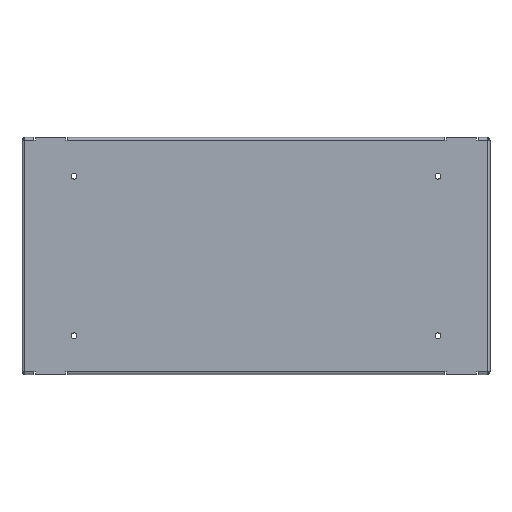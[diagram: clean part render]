
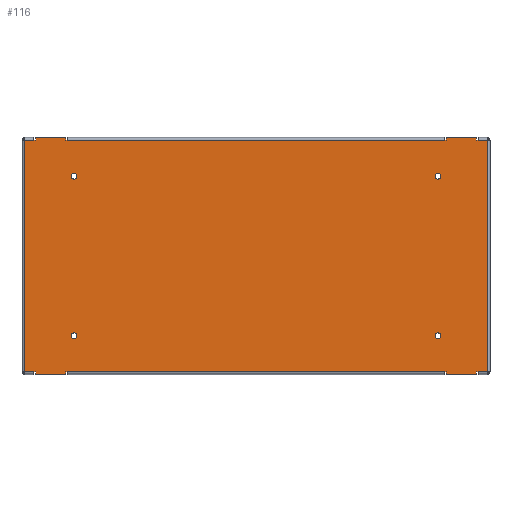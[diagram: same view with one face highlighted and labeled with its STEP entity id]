
A CAD part, top view. The second image highlights one B-rep face of the part: STEP entity #116.
In plain terms, the highlighted planar face has unit normal (0, 0, 1).
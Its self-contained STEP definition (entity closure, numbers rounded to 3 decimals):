
#116=ADVANCED_FACE('',(#582,#584,#586,#588,#590),#592,.F.);
#582=FACE_BOUND('',#583,.T.);
#583=EDGE_LOOP('',(#1966,#1967,#1968,#1969,#1970,#1971,#1972,#1973,#1974,#1975,#1976,
#1977,#1978,#1979,#1980,#1981,#1982,#1983,#1984,#1985,#1986,#1987,#1988,#1989,#1990,
#1991,#1992,#1993));
#584=FACE_BOUND('',#585,.T.);
#585=EDGE_LOOP('',(#1994));
#586=FACE_BOUND('',#587,.T.);
#587=EDGE_LOOP('',(#1995));
#588=FACE_BOUND('',#589,.T.);
#589=EDGE_LOOP('',(#1996));
#590=FACE_BOUND('',#591,.T.);
#591=EDGE_LOOP('',(#1997));
#592=PLANE('',#593);
#593=AXIS2_PLACEMENT_3D('',#594,#595,#596);
#594=CARTESIAN_POINT('',(0.,0.,0.));
#595=DIRECTION('',(0.,0.,-1.));
#596=DIRECTION('',(-1.,0.,0.));
#1966=ORIENTED_EDGE('',*,*,#2666,.T.);
#1967=ORIENTED_EDGE('',*,*,#2565,.T.);
#1968=ORIENTED_EDGE('',*,*,#2549,.T.);
#1969=ORIENTED_EDGE('',*,*,#2667,.F.);
#1970=ORIENTED_EDGE('',*,*,#2668,.F.);
#1971=ORIENTED_EDGE('',*,*,#2669,.F.);
#1972=ORIENTED_EDGE('',*,*,#2551,.T.);
#1973=ORIENTED_EDGE('',*,*,#2557,.T.);
#1974=ORIENTED_EDGE('',*,*,#2541,.T.);
#1975=ORIENTED_EDGE('',*,*,#2670,.F.);
#1976=ORIENTED_EDGE('',*,*,#2671,.F.);
#1977=ORIENTED_EDGE('',*,*,#2672,.F.);
#1978=ORIENTED_EDGE('',*,*,#2543,.T.);
#1979=ORIENTED_EDGE('',*,*,#2559,.T.);
#1980=ORIENTED_EDGE('',*,*,#2673,.T.);
#1981=ORIENTED_EDGE('',*,*,#2674,.T.);
#1982=ORIENTED_EDGE('',*,*,#2675,.F.);
#1983=ORIENTED_EDGE('',*,*,#2676,.T.);
#1984=ORIENTED_EDGE('',*,*,#2677,.T.);
#1985=ORIENTED_EDGE('',*,*,#2678,.T.);
#1986=ORIENTED_EDGE('',*,*,#2610,.F.);
#1987=ORIENTED_EDGE('',*,*,#2618,.T.);
#1988=ORIENTED_EDGE('',*,*,#2679,.F.);
#1989=ORIENTED_EDGE('',*,*,#2680,.T.);
#1990=ORIENTED_EDGE('',*,*,#2681,.T.);
#1991=ORIENTED_EDGE('',*,*,#2682,.T.);
#1992=ORIENTED_EDGE('',*,*,#2614,.F.);
#1993=ORIENTED_EDGE('',*,*,#2622,.T.);
#1994=ORIENTED_EDGE('',*,*,#2521,.T.);
#1995=ORIENTED_EDGE('',*,*,#2523,.T.);
#1996=ORIENTED_EDGE('',*,*,#2535,.F.);
#1997=ORIENTED_EDGE('',*,*,#2537,.F.);
#2521=EDGE_CURVE('',#2895,#2895,#2896,.T.);
#2523=EDGE_CURVE('',#2899,#2899,#2900,.T.);
#2535=EDGE_CURVE('',#2923,#2923,#2924,.T.);
#2537=EDGE_CURVE('',#2927,#2927,#2928,.T.);
#2541=EDGE_CURVE('',#2936,#2934,#2937,.T.);
#2543=EDGE_CURVE('',#2939,#2940,#2941,.T.);
#2549=EDGE_CURVE('',#2952,#2950,#2953,.T.);
#2551=EDGE_CURVE('',#2955,#2956,#2957,.T.);
#2557=EDGE_CURVE('',#2956,#2936,#2967,.T.);
#2559=EDGE_CURVE('',#2940,#2969,#2970,.T.);
#2565=EDGE_CURVE('',#2980,#2952,#2981,.T.);
#2610=EDGE_CURVE('',#3052,#3048,#3054,.T.);
#2614=EDGE_CURVE('',#3060,#3056,#3062,.T.);
#2618=EDGE_CURVE('',#3052,#3067,#3069,.T.);
#2622=EDGE_CURVE('',#3060,#3074,#3076,.T.);
#2666=EDGE_CURVE('',#3074,#2980,#3148,.T.);
#2667=EDGE_CURVE('',#3149,#2950,#3150,.T.);
#2668=EDGE_CURVE('',#3151,#3149,#3152,.T.);
#2669=EDGE_CURVE('',#2955,#3151,#3153,.T.);
#2670=EDGE_CURVE('',#3154,#2934,#3155,.T.);
#2671=EDGE_CURVE('',#3156,#3154,#3157,.T.);
#2672=EDGE_CURVE('',#2939,#3156,#3158,.T.);
#2673=EDGE_CURVE('',#2969,#3159,#3160,.T.);
#2674=EDGE_CURVE('',#3159,#3161,#3162,.T.);
#2675=EDGE_CURVE('',#3163,#3161,#3164,.T.);
#2676=EDGE_CURVE('',#3163,#3165,#3166,.T.);
#2677=EDGE_CURVE('',#3165,#3167,#3168,.T.);
#2678=EDGE_CURVE('',#3167,#3048,#3169,.T.);
#2679=EDGE_CURVE('',#3170,#3067,#3171,.T.);
#2680=EDGE_CURVE('',#3170,#3172,#3173,.T.);
#2681=EDGE_CURVE('',#3172,#3174,#3175,.T.);
#2682=EDGE_CURVE('',#3174,#3056,#3176,.T.);
#2895=VERTEX_POINT('',#3507);
#2896=CIRCLE('',#3508,3.65);
#2899=VERTEX_POINT('',#3517);
#2900=CIRCLE('',#3518,3.65);
#2923=VERTEX_POINT('',#3577);
#2924=CIRCLE('',#3578,3.65);
#2927=VERTEX_POINT('',#3587);
#2928=CIRCLE('',#3588,3.65);
#2934=VERTEX_POINT('',#3602);
#2936=VERTEX_POINT('',#3606);
#2937=LINE('',#3607,#3608);
#2939=VERTEX_POINT('',#3613);
#2940=VERTEX_POINT('',#3614);
#2941=LINE('',#3615,#3616);
#2950=VERTEX_POINT('',#3634);
#2952=VERTEX_POINT('',#3638);
#2953=LINE('',#3639,#3640);
#2955=VERTEX_POINT('',#3645);
#2956=VERTEX_POINT('',#3646);
#2957=LINE('',#3647,#3648);
#2967=LINE('',#3670,#3671);
#2969=VERTEX_POINT('',#3677);
#2970=LINE('',#3678,#3679);
#2980=VERTEX_POINT('',#3716);
#2981=LINE('',#3717,#3718);
#3048=VERTEX_POINT('',#3912);
#3052=VERTEX_POINT('',#3920);
#3054=LINE('',#3924,#3925);
#3056=VERTEX_POINT('',#3928);
#3060=VERTEX_POINT('',#3936);
#3062=LINE('',#3940,#3941);
#3067=VERTEX_POINT('',#3952);
#3069=LINE('',#3957,#3958);
#3074=VERTEX_POINT('',#3969);
#3076=LINE('',#3987,#3988);
#3148=LINE('',#4163,#4164);
#3149=VERTEX_POINT('',#4166);
#3150=LINE('',#4167,#4168);
#3151=VERTEX_POINT('',#4170);
#3152=LINE('',#4171,#4172);
#3153=LINE('',#4174,#4175);
#3154=VERTEX_POINT('',#4177);
#3155=LINE('',#4178,#4179);
#3156=VERTEX_POINT('',#4181);
#3157=LINE('',#4182,#4183);
#3158=LINE('',#4185,#4186);
#3159=VERTEX_POINT('',#4188);
#3160=LINE('',#4189,#4190);
#3161=VERTEX_POINT('',#4192);
#3162=LINE('',#4193,#4194);
#3163=VERTEX_POINT('',#4196);
#3164=LINE('',#4197,#4198);
#3165=VERTEX_POINT('',#4200);
#3166=LINE('',#4201,#4202);
#3167=VERTEX_POINT('',#4204);
#3168=LINE('',#4205,#4206);
#3169=LINE('',#4208,#4209);
#3170=VERTEX_POINT('',#4211);
#3171=LINE('',#4212,#4213);
#3172=VERTEX_POINT('',#4215);
#3173=LINE('',#4216,#4217);
#3174=VERTEX_POINT('',#4219);
#3175=LINE('',#4220,#4221);
#3176=LINE('',#4223,#4224);
#3507=CARTESIAN_POINT('',(-224.35,-100.,0.));
#3508=AXIS2_PLACEMENT_3D('',#3509,#3510,#3511);
#3509=CARTESIAN_POINT('',(-228.,-100.,0.));
#3510=DIRECTION('',(0.,0.,-1.));
#3511=DIRECTION('',(1.,0.,0.));
#3517=CARTESIAN_POINT('',(231.65,-100.,0.));
#3518=AXIS2_PLACEMENT_3D('',#3519,#3520,#3521);
#3519=CARTESIAN_POINT('',(228.,-100.,0.));
#3520=DIRECTION('',(0.,0.,-1.));
#3521=DIRECTION('',(1.,0.,0.));
#3577=CARTESIAN_POINT('',(-224.35,100.,0.));
#3578=AXIS2_PLACEMENT_3D('',#3579,#3580,#3581);
#3579=CARTESIAN_POINT('',(-228.,100.,0.));
#3580=DIRECTION('',(0.,0.,1.));
#3581=DIRECTION('',(-1.,0.,0.));
#3587=CARTESIAN_POINT('',(231.65,100.,0.));
#3588=AXIS2_PLACEMENT_3D('',#3589,#3590,#3591);
#3589=CARTESIAN_POINT('',(228.,100.,0.));
#3590=DIRECTION('',(0.,0.,1.));
#3591=DIRECTION('',(-1.,0.,0.));
#3602=CARTESIAN_POINT('',(238.2,-145.3,0.));
#3606=CARTESIAN_POINT('',(236.2,-145.3,0.));
#3607=CARTESIAN_POINT('',(236.2,-145.3,0.));
#3608=VECTOR('',#3609,1.);
#3609=DIRECTION('',(1.,0.,0.));
#3613=CARTESIAN_POINT('',(276.2,-145.3,0.));
#3614=CARTESIAN_POINT('',(278.2,-145.3,0.));
#3615=CARTESIAN_POINT('',(276.2,-145.3,0.));
#3616=VECTOR('',#3617,1.);
#3617=DIRECTION('',(1.,0.,0.));
#3634=CARTESIAN_POINT('',(-276.2,-145.3,0.));
#3638=CARTESIAN_POINT('',(-278.2,-145.3,0.));
#3639=CARTESIAN_POINT('',(-278.2,-145.3,0.));
#3640=VECTOR('',#3641,1.);
#3641=DIRECTION('',(1.,0.,0.));
#3645=CARTESIAN_POINT('',(-238.2,-145.3,0.));
#3646=CARTESIAN_POINT('',(-236.2,-145.3,0.));
#3647=CARTESIAN_POINT('',(-238.2,-145.3,0.));
#3648=VECTOR('',#3649,1.);
#3649=DIRECTION('',(1.,0.,0.));
#3670=CARTESIAN_POINT('',(-236.2,-145.3,0.));
#3671=VECTOR('',#3672,1.);
#3672=DIRECTION('',(1.,0.,0.));
#3677=CARTESIAN_POINT('',(290.,-145.3,0.));
#3678=CARTESIAN_POINT('',(278.2,-145.3,0.));
#3679=VECTOR('',#3680,1.);
#3680=DIRECTION('',(1.,0.,0.));
#3716=CARTESIAN_POINT('',(-290.,-145.3,0.));
#3717=CARTESIAN_POINT('',(-290.,-145.3,0.));
#3718=VECTOR('',#3719,1.);
#3719=DIRECTION('',(1.,0.,0.));
#3912=CARTESIAN_POINT('',(238.2,145.3,0.));
#3920=CARTESIAN_POINT('',(236.2,145.3,0.));
#3924=CARTESIAN_POINT('',(236.2,145.3,0.));
#3925=VECTOR('',#3926,1.);
#3926=DIRECTION('',(1.,0.,0.));
#3928=CARTESIAN_POINT('',(-276.2,145.3,0.));
#3936=CARTESIAN_POINT('',(-278.2,145.3,0.));
#3940=CARTESIAN_POINT('',(-278.2,145.3,0.));
#3941=VECTOR('',#3942,1.);
#3942=DIRECTION('',(1.,0.,0.));
#3952=CARTESIAN_POINT('',(-236.2,145.3,0.));
#3957=CARTESIAN_POINT('',(236.2,145.3,0.));
#3958=VECTOR('',#3959,1.);
#3959=DIRECTION('',(-1.,0.,0.));
#3969=CARTESIAN_POINT('',(-290.,145.3,0.));
#3987=CARTESIAN_POINT('',(-278.2,145.3,0.));
#3988=VECTOR('',#3989,1.);
#3989=DIRECTION('',(-1.,0.,0.));
#4163=CARTESIAN_POINT('',(-290.,145.3,0.));
#4164=VECTOR('',#4165,1.);
#4165=DIRECTION('',(0.,-1.,0.));
#4166=CARTESIAN_POINT('',(-276.2,-148.5,0.));
#4167=CARTESIAN_POINT('',(-276.2,-148.5,0.));
#4168=VECTOR('',#4169,1.);
#4169=DIRECTION('',(0.,1.,0.));
#4170=CARTESIAN_POINT('',(-238.2,-148.5,0.));
#4171=CARTESIAN_POINT('',(-238.2,-148.5,0.));
#4172=VECTOR('',#4173,1.);
#4173=DIRECTION('',(-1.,0.,0.));
#4174=CARTESIAN_POINT('',(-238.2,-145.3,0.));
#4175=VECTOR('',#4176,1.);
#4176=DIRECTION('',(0.,-1.,0.));
#4177=CARTESIAN_POINT('',(238.2,-148.5,0.));
#4178=CARTESIAN_POINT('',(238.2,-148.5,0.));
#4179=VECTOR('',#4180,1.);
#4180=DIRECTION('',(0.,1.,0.));
#4181=CARTESIAN_POINT('',(276.2,-148.5,0.));
#4182=CARTESIAN_POINT('',(276.2,-148.5,0.));
#4183=VECTOR('',#4184,1.);
#4184=DIRECTION('',(-1.,0.,0.));
#4185=CARTESIAN_POINT('',(276.2,-145.3,0.));
#4186=VECTOR('',#4187,1.);
#4187=DIRECTION('',(0.,-1.,0.));
#4188=CARTESIAN_POINT('',(290.,145.3,0.));
#4189=CARTESIAN_POINT('',(290.,-145.3,0.));
#4190=VECTOR('',#4191,1.);
#4191=DIRECTION('',(0.,1.,0.));
#4192=CARTESIAN_POINT('',(278.2,145.3,0.));
#4193=CARTESIAN_POINT('',(290.,145.3,0.));
#4194=VECTOR('',#4195,1.);
#4195=DIRECTION('',(-1.,0.,0.));
#4196=CARTESIAN_POINT('',(276.2,145.3,0.));
#4197=CARTESIAN_POINT('',(276.2,145.3,0.));
#4198=VECTOR('',#4199,1.);
#4199=DIRECTION('',(1.,0.,0.));
#4200=CARTESIAN_POINT('',(276.2,148.5,0.));
#4201=CARTESIAN_POINT('',(276.2,145.3,0.));
#4202=VECTOR('',#4203,1.);
#4203=DIRECTION('',(0.,1.,0.));
#4204=CARTESIAN_POINT('',(238.2,148.5,0.));
#4205=CARTESIAN_POINT('',(276.2,148.5,0.));
#4206=VECTOR('',#4207,1.);
#4207=DIRECTION('',(-1.,0.,0.));
#4208=CARTESIAN_POINT('',(238.2,148.5,0.));
#4209=VECTOR('',#4210,1.);
#4210=DIRECTION('',(0.,-1.,0.));
#4211=CARTESIAN_POINT('',(-238.2,145.3,0.));
#4212=CARTESIAN_POINT('',(-238.2,145.3,0.));
#4213=VECTOR('',#4214,1.);
#4214=DIRECTION('',(1.,0.,0.));
#4215=CARTESIAN_POINT('',(-238.2,148.5,0.));
#4216=CARTESIAN_POINT('',(-238.2,145.3,0.));
#4217=VECTOR('',#4218,1.);
#4218=DIRECTION('',(0.,1.,0.));
#4219=CARTESIAN_POINT('',(-276.2,148.5,0.));
#4220=CARTESIAN_POINT('',(-238.2,148.5,0.));
#4221=VECTOR('',#4222,1.);
#4222=DIRECTION('',(-1.,0.,0.));
#4223=CARTESIAN_POINT('',(-276.2,148.5,0.));
#4224=VECTOR('',#4225,1.);
#4225=DIRECTION('',(0.,-1.,0.));
